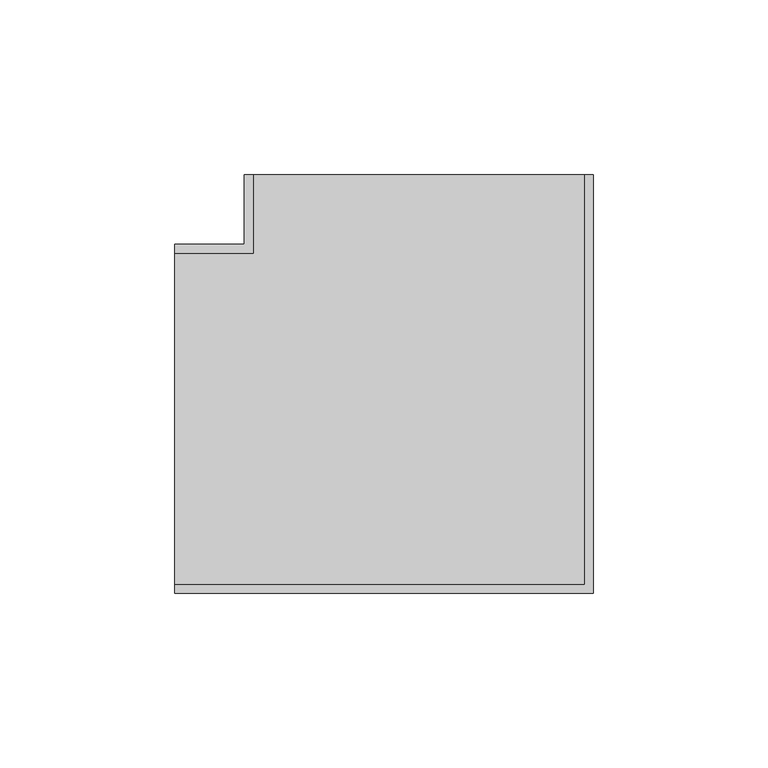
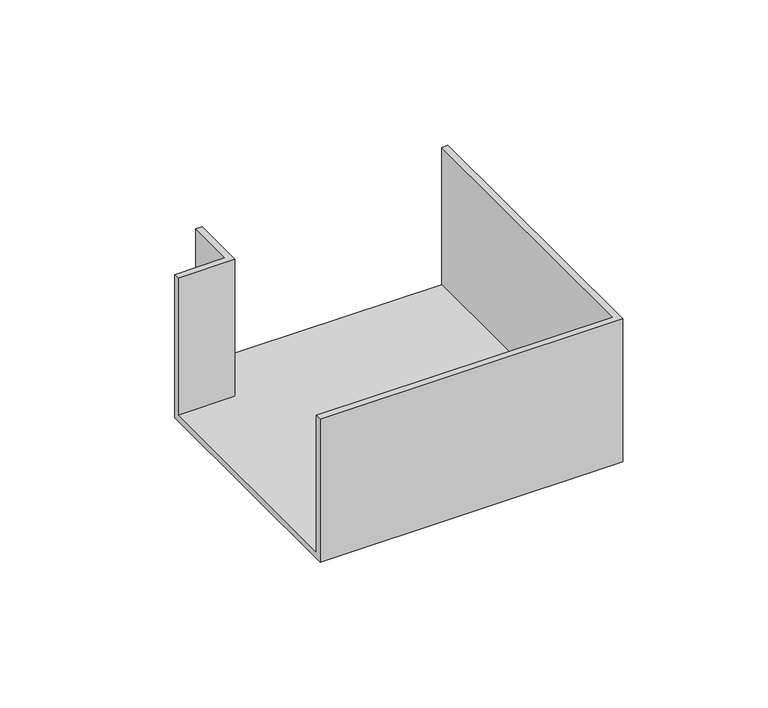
"""IFC4 building model written with IfcOpenShell, lengths in millimetres: cable carrier fitting geometry, КНС_УголПлоский NPAN_ILC_DKC : Угол плоский NPAN_DKC."""

from ifc_helpers import new_model, si_unit, origin, place, context, project, spatial, faceted_brep, source, transform, mapped, element, save


def cable_carrier_fitting_ee93082e(model_context):
    return source(origin(), model_context, "Body", "Brep", [
        faceted_brep([(-70.0, 50.0, -30.0), (-70.0, -50.0, -30.0), (-70.0, -50.0, 30.0), (-70.0, -47.5, 30.0), (-70.0, -47.5, -27.5), (-70.0, 47.5, -27.5), (-70.0, 47.5, 30.0), (-70.0, 50.0, 30.0), (-50.0, 50.0, -30.0), (-50.0, 70.0, -30.0), (50.0, 70.0, -30.0), (50.0, -50.0, -30.0), (50.0, -50.0, 30.0), (50.0, 70.0, 30.0), (47.5, 70.0, 30.0), (47.5, -47.5, 30.0), (47.5, -47.5, -27.5), (47.5, 70.0, -27.5), (-47.5, 70.0, -27.5), (-47.5, 47.5, -27.5), (-47.5, 47.5, 30.0), (-47.5, 70.0, 30.0), (-50.0, 70.0, 30.0), (-50.0, 50.0, 30.0)], [[[0, 1, 2, 3, 4, 5, 6, 7]], [[1, 0, 8, 9, 10, 11]], [[2, 1, 11, 12]], [[3, 2, 12, 13, 14, 15]], [[4, 3, 15, 16]], [[5, 4, 16, 17, 18, 19]], [[6, 5, 19, 20]], [[7, 6, 20, 21, 22, 23]], [[0, 7, 23, 8]], [[9, 22, 21, 18, 17, 14, 13, 10]], [[12, 11, 10, 13]], [[16, 15, 14, 17]], [[20, 19, 18, 21]], [[8, 23, 22, 9]]]),
    ])


if __name__ == "__main__":
    model = new_model("IFC4")
    model_context = context("Model", 3, world=origin())
    ifc_project = project(units=[si_unit("LENGTHUNIT", "METRE", prefix="MILLI")], contexts=[model_context])
    site = spatial("IfcSite", under=ifc_project)
    building = spatial("IfcBuilding", under=site)
    placement = place(None, origin())
    cable_carrier_fitting_shape = cable_carrier_fitting_ee93082e(model_context)
    element("IfcCableCarrierFitting", 1, ObjectType="КНС_УголПлоский NPAN_ILC_DKC : Угол плоский NPAN_DKC", at=placement, inside=building, context=model_context, shape_type="MappedRepresentation", body=[
        mapped(cable_carrier_fitting_shape, transform((0.0, 0.0, 0.0), x_axis=(1.0, 0.0, 0.0), y_axis=(0.0, 1.0, 0.0), z_axis=(0.0, 0.0, 1.0))),
    ])
    save(model, "model.ifc")
